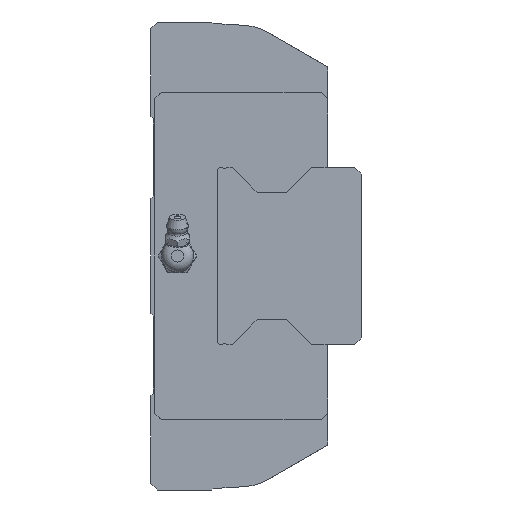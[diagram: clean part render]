
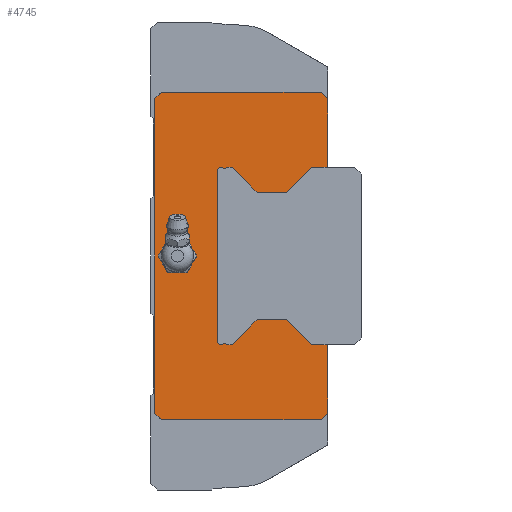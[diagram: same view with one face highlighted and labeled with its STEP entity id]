
A CAD part, left-side view. The second image highlights one B-rep face of the part: STEP entity #4745.
In plain terms, the highlighted planar face has unit normal (-1, 0, 0).
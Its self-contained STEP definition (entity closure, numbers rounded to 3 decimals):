
#187=CIRCLE('',#5137,4.864);
#188=CIRCLE('',#5138,0.3);
#189=CIRCLE('',#5139,0.3);
#190=CIRCLE('',#5140,1.);
#191=CIRCLE('',#5141,1.);
#192=CIRCLE('',#5142,0.3);
#193=CIRCLE('',#5143,0.3);
#752=ORIENTED_EDGE('',*,*,#1898,.T.);
#753=ORIENTED_EDGE('',*,*,#1899,.T.);
#754=ORIENTED_EDGE('',*,*,#1885,.F.);
#755=ORIENTED_EDGE('',*,*,#1847,.F.);
#756=ORIENTED_EDGE('',*,*,#1843,.F.);
#757=ORIENTED_EDGE('',*,*,#1835,.F.);
#758=ORIENTED_EDGE('',*,*,#1871,.F.);
#759=ORIENTED_EDGE('',*,*,#1820,.F.);
#760=ORIENTED_EDGE('',*,*,#1858,.F.);
#761=ORIENTED_EDGE('',*,*,#1855,.F.);
#762=ORIENTED_EDGE('',*,*,#1887,.F.);
#763=ORIENTED_EDGE('',*,*,#1900,.T.);
#764=ORIENTED_EDGE('',*,*,#1901,.T.);
#765=ORIENTED_EDGE('',*,*,#1902,.F.);
#766=ORIENTED_EDGE('',*,*,#1903,.T.);
#767=ORIENTED_EDGE('',*,*,#1904,.F.);
#768=ORIENTED_EDGE('',*,*,#1905,.T.);
#769=ORIENTED_EDGE('',*,*,#1906,.T.);
#770=ORIENTED_EDGE('',*,*,#1907,.T.);
#771=ORIENTED_EDGE('',*,*,#1908,.T.);
#772=ORIENTED_EDGE('',*,*,#1909,.T.);
#773=ORIENTED_EDGE('',*,*,#1865,.T.);
#774=ORIENTED_EDGE('',*,*,#1910,.T.);
#775=ORIENTED_EDGE('',*,*,#1911,.T.);
#776=ORIENTED_EDGE('',*,*,#1912,.T.);
#777=ORIENTED_EDGE('',*,*,#1913,.T.);
#778=ORIENTED_EDGE('',*,*,#1914,.T.);
#779=ORIENTED_EDGE('',*,*,#1915,.F.);
#780=ORIENTED_EDGE('',*,*,#1916,.T.);
#781=ORIENTED_EDGE('',*,*,#1917,.F.);
#782=ORIENTED_EDGE('',*,*,#1918,.T.);
#1820=EDGE_CURVE('',#2437,#2438,#2875,.T.);
#1835=EDGE_CURVE('',#2452,#2453,#2890,.T.);
#1843=EDGE_CURVE('',#2453,#2459,#2897,.T.);
#1847=EDGE_CURVE('',#2459,#2461,#2901,.T.);
#1855=EDGE_CURVE('',#2468,#2469,#2909,.T.);
#1858=EDGE_CURVE('',#2469,#2437,#2912,.T.);
#1865=EDGE_CURVE('',#2472,#2474,#2918,.T.);
#1871=EDGE_CURVE('',#2438,#2452,#2924,.T.);
#1885=EDGE_CURVE('',#2461,#2476,#2935,.T.);
#1887=EDGE_CURVE('',#2485,#2468,#2937,.T.);
#1898=EDGE_CURVE('',#2495,#2495,#187,.T.);
#1899=EDGE_CURVE('',#2496,#2476,#2945,.T.);
#1900=EDGE_CURVE('',#2485,#2497,#2946,.T.);
#1901=EDGE_CURVE('',#2497,#2498,#2947,.T.);
#1902=EDGE_CURVE('',#2499,#2498,#188,.T.);
#1903=EDGE_CURVE('',#2499,#2500,#2948,.T.);
#1904=EDGE_CURVE('',#2501,#2500,#189,.T.);
#1905=EDGE_CURVE('',#2501,#2502,#2949,.T.);
#1906=EDGE_CURVE('',#2502,#2503,#2950,.T.);
#1907=EDGE_CURVE('',#2503,#2504,#2951,.T.);
#1908=EDGE_CURVE('',#2504,#2505,#2952,.T.);
#1909=EDGE_CURVE('',#2505,#2472,#190,.T.);
#1910=EDGE_CURVE('',#2474,#2506,#191,.T.);
#1911=EDGE_CURVE('',#2506,#2507,#2953,.T.);
#1912=EDGE_CURVE('',#2507,#2508,#2954,.T.);
#1913=EDGE_CURVE('',#2508,#2509,#2955,.T.);
#1914=EDGE_CURVE('',#2509,#2510,#2956,.T.);
#1915=EDGE_CURVE('',#2511,#2510,#192,.T.);
#1916=EDGE_CURVE('',#2511,#2512,#2957,.T.);
#1917=EDGE_CURVE('',#2513,#2512,#193,.T.);
#1918=EDGE_CURVE('',#2513,#2496,#2958,.T.);
#2437=VERTEX_POINT('',#7199);
#2438=VERTEX_POINT('',#7201);
#2452=VERTEX_POINT('',#7230);
#2453=VERTEX_POINT('',#7232);
#2459=VERTEX_POINT('',#7248);
#2461=VERTEX_POINT('',#7255);
#2468=VERTEX_POINT('',#7270);
#2469=VERTEX_POINT('',#7272);
#2472=VERTEX_POINT('',#7285);
#2474=VERTEX_POINT('',#7289);
#2476=VERTEX_POINT('',#7306);
#2485=VERTEX_POINT('',#7328);
#2495=VERTEX_POINT('',#7351);
#2496=VERTEX_POINT('',#7353);
#2497=VERTEX_POINT('',#7355);
#2498=VERTEX_POINT('',#7357);
#2499=VERTEX_POINT('',#7359);
#2500=VERTEX_POINT('',#7361);
#2501=VERTEX_POINT('',#7363);
#2502=VERTEX_POINT('',#7365);
#2503=VERTEX_POINT('',#7367);
#2504=VERTEX_POINT('',#7369);
#2505=VERTEX_POINT('',#7371);
#2506=VERTEX_POINT('',#7374);
#2507=VERTEX_POINT('',#7376);
#2508=VERTEX_POINT('',#7378);
#2509=VERTEX_POINT('',#7380);
#2510=VERTEX_POINT('',#7382);
#2511=VERTEX_POINT('',#7384);
#2512=VERTEX_POINT('',#7386);
#2513=VERTEX_POINT('',#7388);
#2875=LINE('',#7200,#3311);
#2890=LINE('',#7231,#3326);
#2897=LINE('',#7247,#3333);
#2901=LINE('',#7254,#3337);
#2909=LINE('',#7271,#3345);
#2912=LINE('',#7276,#3348);
#2918=LINE('',#7290,#3354);
#2924=LINE('',#7299,#3360);
#2935=LINE('',#7325,#3371);
#2937=LINE('',#7330,#3373);
#2945=LINE('',#7352,#3381);
#2946=LINE('',#7354,#3382);
#2947=LINE('',#7356,#3383);
#2948=LINE('',#7360,#3384);
#2949=LINE('',#7364,#3385);
#2950=LINE('',#7366,#3386);
#2951=LINE('',#7368,#3387);
#2952=LINE('',#7370,#3388);
#2953=LINE('',#7375,#3389);
#2954=LINE('',#7377,#3390);
#2955=LINE('',#7379,#3391);
#2956=LINE('',#7381,#3392);
#2957=LINE('',#7385,#3393);
#2958=LINE('',#7389,#3394);
#3311=VECTOR('',#5829,1000.);
#3326=VECTOR('',#5846,1000.);
#3333=VECTOR('',#5859,1000.);
#3337=VECTOR('',#5865,1000.);
#3345=VECTOR('',#5875,1000.);
#3348=VECTOR('',#5880,1000.);
#3354=VECTOR('',#5892,1000.);
#3360=VECTOR('',#5904,1000.);
#3371=VECTOR('',#5925,1000.);
#3373=VECTOR('',#5929,1000.);
#3381=VECTOR('',#5947,1000.);
#3382=VECTOR('',#5948,1000.);
#3383=VECTOR('',#5949,1000.);
#3384=VECTOR('',#5952,1000.);
#3385=VECTOR('',#5955,1000.);
#3386=VECTOR('',#5956,1000.);
#3387=VECTOR('',#5957,1000.);
#3388=VECTOR('',#5958,1000.);
#3389=VECTOR('',#5963,1000.);
#3390=VECTOR('',#5964,1000.);
#3391=VECTOR('',#5965,1000.);
#3392=VECTOR('',#5966,1000.);
#3393=VECTOR('',#5969,1000.);
#3394=VECTOR('',#5972,1000.);
#3800=EDGE_LOOP('',(#752));
#3801=EDGE_LOOP('',(#753,#754,#755,#756,#757,#758,#759,#760,#761,#762,#763,
#764,#765,#766,#767,#768,#769,#770,#771,#772,#773,#774,#775,#776,#777,#778,
#779,#780,#781,#782));
#4217=FACE_BOUND('',#3800,.T.);
#4218=FACE_BOUND('',#3801,.T.);
#4535=PLANE('',#5136);
#4745=ADVANCED_FACE('',(#4217,#4218),#4535,.F.);
#5136=AXIS2_PLACEMENT_3D('',#7349,#5943,#5944);
#5137=AXIS2_PLACEMENT_3D('',#7350,#5945,#5946);
#5138=AXIS2_PLACEMENT_3D('',#7358,#5950,#5951);
#5139=AXIS2_PLACEMENT_3D('',#7362,#5953,#5954);
#5140=AXIS2_PLACEMENT_3D('',#7372,#5959,#5960);
#5141=AXIS2_PLACEMENT_3D('',#7373,#5961,#5962);
#5142=AXIS2_PLACEMENT_3D('',#7383,#5967,#5968);
#5143=AXIS2_PLACEMENT_3D('',#7387,#5970,#5971);
#5829=DIRECTION('',(0.,0.707,0.707));
#5846=DIRECTION('',(0.,-0.707,0.707));
#5859=DIRECTION('',(0.,-1.,0.));
#5865=DIRECTION('',(0.,-0.707,-0.707));
#5875=DIRECTION('',(0.,0.707,-0.707));
#5880=DIRECTION('',(0.,1.,0.));
#5892=DIRECTION('',(0.,0.,1.));
#5904=DIRECTION('',(0.,0.,1.));
#5925=DIRECTION('',(0.,0.,-1.));
#5929=DIRECTION('',(0.,0.,-1.));
#5943=DIRECTION('',(1.,0.,0.));
#5944=DIRECTION('',(0.,0.,-1.));
#5945=DIRECTION('',(1.,0.,0.));
#5946=DIRECTION('',(0.,0.,-1.));
#5947=DIRECTION('',(0.,-1.,0.));
#5948=DIRECTION('',(0.,1.,0.));
#5949=DIRECTION('',(0.,0.712,0.702));
#5950=DIRECTION('',(1.,0.,0.));
#5951=DIRECTION('',(0.,0.,-1.));
#5952=DIRECTION('',(0.,1.,0.));
#5953=DIRECTION('',(1.,0.,0.));
#5954=DIRECTION('',(0.,0.,-1.));
#5955=DIRECTION('',(0.,0.707,-0.707));
#5956=DIRECTION('',(0.,1.,0.));
#5957=DIRECTION('',(0.,0.707,0.707));
#5958=DIRECTION('',(0.,1.,0.));
#5959=DIRECTION('',(1.,0.,0.));
#5960=DIRECTION('',(0.,0.,-1.));
#5961=DIRECTION('',(1.,0.,0.));
#5962=DIRECTION('',(0.,0.,-1.));
#5963=DIRECTION('',(0.,-1.,0.));
#5964=DIRECTION('',(0.,-0.707,0.707));
#5965=DIRECTION('',(0.,-1.,0.));
#5966=DIRECTION('',(0.,-0.707,-0.707));
#5967=DIRECTION('',(1.,0.,0.));
#5968=DIRECTION('',(0.,0.,-1.));
#5969=DIRECTION('',(0.,-1.,0.));
#5970=DIRECTION('',(1.,0.,0.));
#5971=DIRECTION('',(0.,0.,-1.));
#5972=DIRECTION('',(0.,-0.712,0.702));
#7199=CARTESIAN_POINT('',(-146.,49.8,-49.));
#7200=CARTESIAN_POINT('',(-146.,49.8,-49.));
#7201=CARTESIAN_POINT('',(-146.,51.8,-47.));
#7230=CARTESIAN_POINT('',(-146.,51.8,47.));
#7231=CARTESIAN_POINT('',(-146.,51.8,47.));
#7232=CARTESIAN_POINT('',(-146.,49.8,49.));
#7247=CARTESIAN_POINT('',(-146.,49.8,49.));
#7248=CARTESIAN_POINT('',(-146.,2.,49.));
#7254=CARTESIAN_POINT('',(-146.,2.,49.));
#7255=CARTESIAN_POINT('',(-146.,0.,47.));
#7270=CARTESIAN_POINT('',(-146.,0.,-47.));
#7271=CARTESIAN_POINT('',(-146.,0.,-47.));
#7272=CARTESIAN_POINT('',(-146.,2.,-49.));
#7276=CARTESIAN_POINT('',(-146.,2.,-49.));
#7285=CARTESIAN_POINT('',(-146.,33.,-25.5));
#7289=CARTESIAN_POINT('',(-146.,33.,25.5));
#7290=CARTESIAN_POINT('',(-146.,33.,-25.5));
#7299=CARTESIAN_POINT('',(-146.,51.8,-47.));
#7306=CARTESIAN_POINT('',(-146.,0.,26.5));
#7325=CARTESIAN_POINT('',(-146.,0.,47.));
#7328=CARTESIAN_POINT('',(-146.,0.,-26.5));
#7330=CARTESIAN_POINT('',(-146.,0.,47.));
#7349=CARTESIAN_POINT('',(-146.,0.,0.));
#7350=CARTESIAN_POINT('',(-146.,45.,0.));
#7351=CARTESIAN_POINT('',(-146.,45.,-4.864));
#7352=CARTESIAN_POINT('',(-146.,4.83,26.5));
#7353=CARTESIAN_POINT('',(-146.,4.83,26.5));
#7354=CARTESIAN_POINT('',(-146.,-8.,-26.5));
#7355=CARTESIAN_POINT('',(-146.,4.83,-26.5));
#7356=CARTESIAN_POINT('',(-146.,4.83,-26.5));
#7357=CARTESIAN_POINT('',(-146.,12.342,-19.086));
#7358=CARTESIAN_POINT('',(-146.,12.553,-19.3));
#7359=CARTESIAN_POINT('',(-146.,12.553,-19.));
#7360=CARTESIAN_POINT('',(-146.,12.553,-19.));
#7361=CARTESIAN_POINT('',(-146.,20.976,-19.));
#7362=CARTESIAN_POINT('',(-146.,20.976,-19.3));
#7363=CARTESIAN_POINT('',(-146.,21.188,-19.088));
#7364=CARTESIAN_POINT('',(-146.,21.188,-19.088));
#7365=CARTESIAN_POINT('',(-146.,28.6,-26.5));
#7366=CARTESIAN_POINT('',(-146.,28.6,-26.5));
#7367=CARTESIAN_POINT('',(-146.,30.25,-26.5));
#7368=CARTESIAN_POINT('',(-146.,30.25,-26.5));
#7369=CARTESIAN_POINT('',(-146.,30.5,-26.25));
#7370=CARTESIAN_POINT('',(-146.,30.5,-26.25));
#7371=CARTESIAN_POINT('',(-146.,31.339,-26.25));
#7372=CARTESIAN_POINT('',(-146.,32.,-25.5));
#7373=CARTESIAN_POINT('',(-146.,32.,25.5));
#7374=CARTESIAN_POINT('',(-146.,31.339,26.25));
#7375=CARTESIAN_POINT('',(-146.,31.339,26.25));
#7376=CARTESIAN_POINT('',(-146.,30.5,26.25));
#7377=CARTESIAN_POINT('',(-146.,30.5,26.25));
#7378=CARTESIAN_POINT('',(-146.,30.25,26.5));
#7379=CARTESIAN_POINT('',(-146.,30.25,26.5));
#7380=CARTESIAN_POINT('',(-146.,28.6,26.5));
#7381=CARTESIAN_POINT('',(-146.,28.6,26.5));
#7382=CARTESIAN_POINT('',(-146.,21.188,19.088));
#7383=CARTESIAN_POINT('',(-146.,20.976,19.3));
#7384=CARTESIAN_POINT('',(-146.,20.976,19.));
#7385=CARTESIAN_POINT('',(-146.,20.976,19.));
#7386=CARTESIAN_POINT('',(-146.,12.553,19.));
#7387=CARTESIAN_POINT('',(-146.,12.553,19.3));
#7388=CARTESIAN_POINT('',(-146.,12.342,19.086));
#7389=CARTESIAN_POINT('',(-146.,12.342,19.086));
